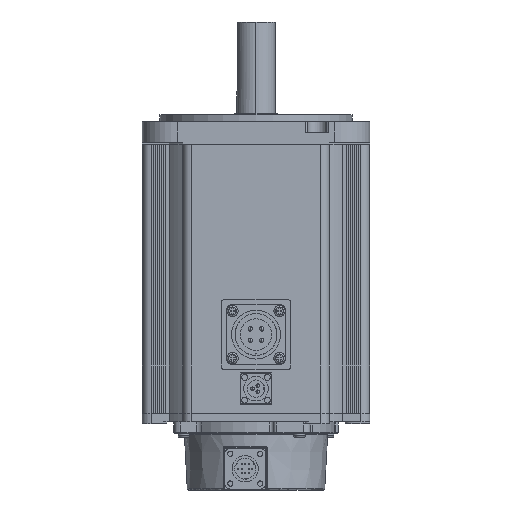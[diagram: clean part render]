
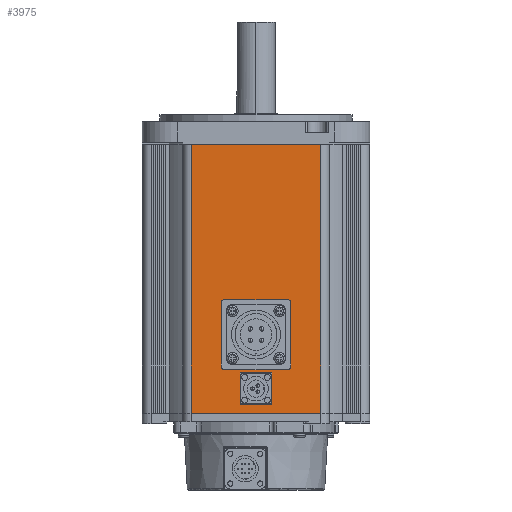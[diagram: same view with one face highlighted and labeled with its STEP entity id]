
A CAD part, front view. The second image highlights one B-rep face of the part: STEP entity #3975.
In plain terms, the highlighted planar face has unit normal (0, -1, 0) as drawn and (0, 1, 0) by its records, which use the part's own axes.
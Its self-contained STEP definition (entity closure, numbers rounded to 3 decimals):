
#2135 = DIRECTION ( 'NONE',  ( -1., 0., 0. ) ) ;
#3199 = VECTOR ( 'NONE', #32359, 1000. ) ;
#3897 = DIRECTION ( 'NONE',  ( 0., 0., -1. ) ) ;
#3975 = ADVANCED_FACE ( 'NONE', ( #9219, #19437, #13573 ), #28046, .F. ) ;
#4323 = DIRECTION ( 'NONE',  ( -1., 0., 0. ) ) ;
#4938 = VERTEX_POINT ( 'NONE', #30158 ) ;
#5905 = AXIS2_PLACEMENT_3D ( 'NONE', #23135, #13042, #10704 ) ;
#6012 = CARTESIAN_POINT ( 'NONE',  ( -5., 65., 14. ) ) ;
#6333 = LINE ( 'NONE', #9658, #3199 ) ;
#6620 = EDGE_CURVE ( 'NONE', #28309, #25436, #6333, .T. ) ;
#8068 = ORIENTED_EDGE ( 'NONE', *, *, #26573, .F. ) ;
#8090 = DIRECTION ( 'NONE',  ( 0., 0., -1. ) ) ;
#9219 = FACE_BOUND ( 'NONE', #22601, .T. ) ;
#9413 = ORIENTED_EDGE ( 'NONE', *, *, #6620, .T. ) ;
#9598 = VERTEX_POINT ( 'NONE', #31757 ) ;
#9658 = CARTESIAN_POINT ( 'NONE',  ( -37., 65., 0. ) ) ;
#10332 = VECTOR ( 'NONE', #3897, 1000. ) ;
#10652 = CARTESIAN_POINT ( 'NONE',  ( -37., 65., 154. ) ) ;
#10704 = DIRECTION ( 'NONE',  ( -1., 0., 0. ) ) ;
#10898 = ORIENTED_EDGE ( 'NONE', *, *, #30831, .F. ) ;
#12497 = ORIENTED_EDGE ( 'NONE', *, *, #31031, .F. ) ;
#12985 = DIRECTION ( 'NONE',  ( 0., -1., 0. ) ) ;
#13042 = DIRECTION ( 'NONE',  ( 0., 1., 0. ) ) ;
#13511 = DIRECTION ( 'NONE',  ( -1., 0., 0. ) ) ;
#13573 = FACE_OUTER_BOUND ( 'NONE', #29172, .T. ) ;
#14122 = CARTESIAN_POINT ( 'NONE',  ( 37., 65., 154. ) ) ;
#14567 = EDGE_LOOP ( 'NONE', ( #10898, #8068 ) ) ;
#15113 = VECTOR ( 'NONE', #25201, 1000. ) ;
#15905 = DIRECTION ( 'NONE',  ( 0., 1., 0. ) ) ;
#16154 = VERTEX_POINT ( 'NONE', #16521 ) ;
#16265 = AXIS2_PLACEMENT_3D ( 'NONE', #25168, #15905, #13511 ) ;
#16521 = CARTESIAN_POINT ( 'NONE',  ( 37., 65., 154. ) ) ;
#16880 = VERTEX_POINT ( 'NONE', #29395 ) ;
#18652 = CARTESIAN_POINT ( 'NONE',  ( -37., 65., 0. ) ) ;
#18702 = LINE ( 'NONE', #20517, #21048 ) ;
#19172 = CIRCLE ( 'NONE', #16265, 5. ) ;
#19437 = FACE_BOUND ( 'NONE', #14567, .T. ) ;
#20271 = AXIS2_PLACEMENT_3D ( 'NONE', #21574, #26430, #4323 ) ;
#20517 = CARTESIAN_POINT ( 'NONE',  ( -37., 65., 154. ) ) ;
#20656 = DIRECTION ( 'NONE',  ( 1., 0., 0. ) ) ;
#20871 = CARTESIAN_POINT ( 'NONE',  ( -5., 65., 45. ) ) ;
#21048 = VECTOR ( 'NONE', #8090, 1000. ) ;
#21091 = EDGE_CURVE ( 'NONE', #16154, #28309, #25660, .T. ) ;
#21159 = CIRCLE ( 'NONE', #5905, 5. ) ;
#21574 = CARTESIAN_POINT ( 'NONE',  ( 0., 65., 45. ) ) ;
#22422 = CARTESIAN_POINT ( 'NONE',  ( -37., 65., 154. ) ) ;
#22601 = EDGE_LOOP ( 'NONE', ( #29540, #12497 ) ) ;
#23135 = CARTESIAN_POINT ( 'NONE',  ( 0., 65., 14. ) ) ;
#23684 = VERTEX_POINT ( 'NONE', #6012 ) ;
#24980 = ORIENTED_EDGE ( 'NONE', *, *, #28773, .F. ) ;
#25168 = CARTESIAN_POINT ( 'NONE',  ( 0., 65., 45. ) ) ;
#25201 = DIRECTION ( 'NONE',  ( -1., 0., 0. ) ) ;
#25436 = VERTEX_POINT ( 'NONE', #18652 ) ;
#25660 = LINE ( 'NONE', #14122, #10332 ) ;
#25920 = EDGE_CURVE ( 'NONE', #23684, #9598, #21159, .T. ) ;
#26430 = DIRECTION ( 'NONE',  ( 0., 1., 0. ) ) ;
#26573 = EDGE_CURVE ( 'NONE', #16880, #32605, #19172, .T. ) ;
#26952 = AXIS2_PLACEMENT_3D ( 'NONE', #10652, #12985, #20656 ) ;
#28046 = PLANE ( 'NONE',  #26952 ) ;
#28296 = AXIS2_PLACEMENT_3D ( 'NONE', #29770, #32300, #2135 ) ;
#28309 = VERTEX_POINT ( 'NONE', #31644 ) ;
#28567 = ORIENTED_EDGE ( 'NONE', *, *, #29805, .F. ) ;
#28773 = EDGE_CURVE ( 'NONE', #4938, #25436, #18702, .T. ) ;
#29172 = EDGE_LOOP ( 'NONE', ( #9413, #24980, #28567, #29591 ) ) ;
#29395 = CARTESIAN_POINT ( 'NONE',  ( 5., 65., 45. ) ) ;
#29540 = ORIENTED_EDGE ( 'NONE', *, *, #25920, .F. ) ;
#29591 = ORIENTED_EDGE ( 'NONE', *, *, #21091, .T. ) ;
#29770 = CARTESIAN_POINT ( 'NONE',  ( 0., 65., 14. ) ) ;
#29805 = EDGE_CURVE ( 'NONE', #16154, #4938, #30891, .T. ) ;
#30158 = CARTESIAN_POINT ( 'NONE',  ( -37., 65., 154. ) ) ;
#30831 = EDGE_CURVE ( 'NONE', #32605, #16880, #31548, .T. ) ;
#30891 = LINE ( 'NONE', #22422, #15113 ) ;
#31031 = EDGE_CURVE ( 'NONE', #9598, #23684, #32361, .T. ) ;
#31548 = CIRCLE ( 'NONE', #20271, 5. ) ;
#31644 = CARTESIAN_POINT ( 'NONE',  ( 37., 65., 0. ) ) ;
#31757 = CARTESIAN_POINT ( 'NONE',  ( 5., 65., 14. ) ) ;
#32300 = DIRECTION ( 'NONE',  ( 0., 1., 0. ) ) ;
#32359 = DIRECTION ( 'NONE',  ( -1., 0., 0. ) ) ;
#32361 = CIRCLE ( 'NONE', #28296, 5. ) ;
#32605 = VERTEX_POINT ( 'NONE', #20871 ) ;
